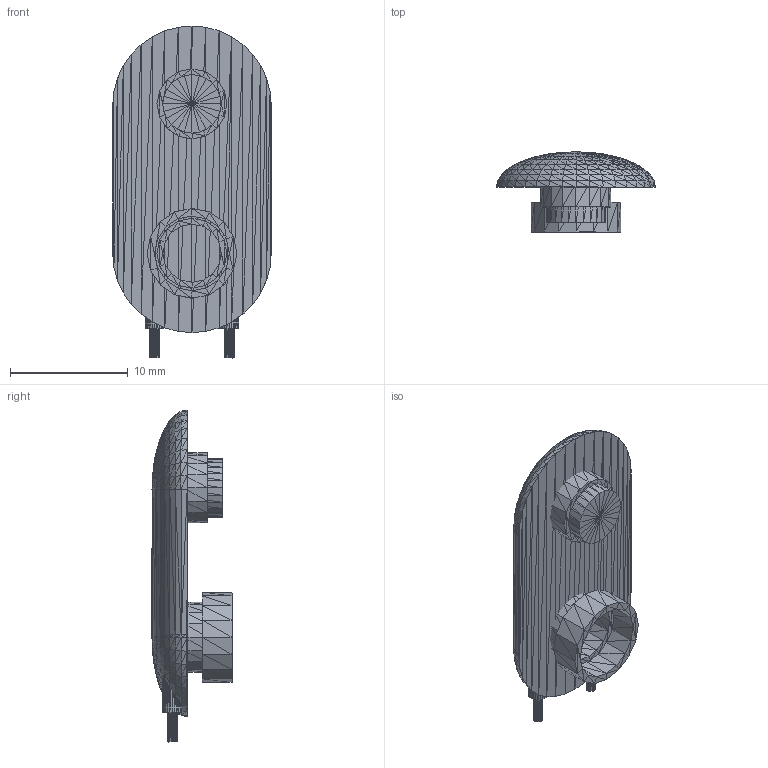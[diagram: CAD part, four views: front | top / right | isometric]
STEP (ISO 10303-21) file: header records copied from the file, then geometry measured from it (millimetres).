
FILE_DESCRIPTION(('HOOPS Exchange Step'),'2;1');
FILE_NAME('***.stp');
FILE_SCHEMA( ('AP242_MANAGED_MODEL_BASED_3D_ENGINEERING_MIM_LF {1 0 10303 442 1 1 4 }') );
Length unit declared in the file: inch
Products named in the file (10): BATT9VCLIP_2; BATT9VCLIP_3; BATT9VCLIP_4; BATT9VCLIP_5; BATT9VCLIP_6; BATT9VCLIP_7; BATT9VCLIP_8; BATT9VCLIP_9; BATT9VCLIP_10; BATT9VCLIP
Assembly tree (9 placements, depth 2):
  BATT9VCLIP
    BATT9VCLIP_2
    BATT9VCLIP_3
    BATT9VCLIP_4
    BATT9VCLIP_5
    BATT9VCLIP_6
    BATT9VCLIP_7
    BATT9VCLIP_8
    BATT9VCLIP_9
    BATT9VCLIP_10
Bounding box: 13.51 x 6.81 x 28.21 mm (x, y, z)
Volume: 837.7 mm3; surface area: 1163.5 mm2
Topology: 9 solids, 9 shells, 1846 faces, 2769 edges, 935 vertices
Faces by surface type: plane 1846
Entity records: 36455 total; most frequent: DIRECTION 6501, CARTESIAN_POINT 5570, ORIENTED_EDGE 5538, VECTOR 2769, LINE 2769, EDGE_CURVE 2769, AXIS2_PLACEMENT_3D 1866, PLANE 1846
